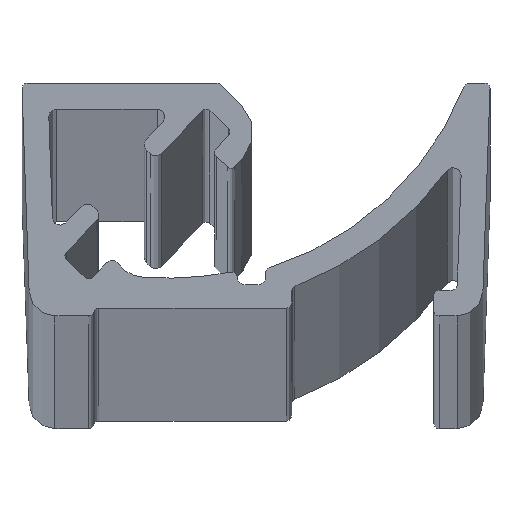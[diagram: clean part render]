
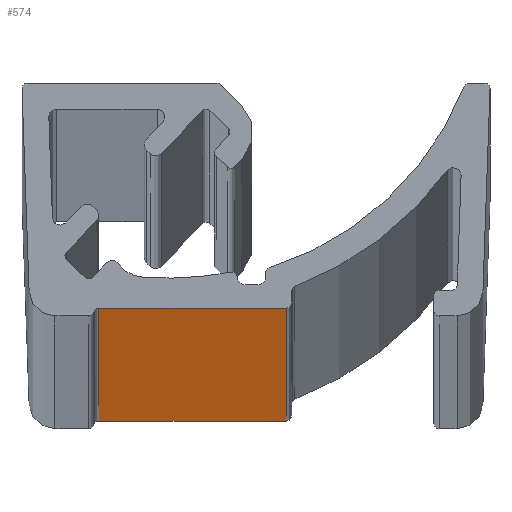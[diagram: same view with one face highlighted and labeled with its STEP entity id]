
A CAD part, top view. The second image highlights one B-rep face of the part: STEP entity #574.
In plain terms, the highlighted planar face has unit normal (0, -1, 0).
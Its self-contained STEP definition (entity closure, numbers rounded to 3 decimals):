
#51 = VERTEX_POINT ( 'NONE', #1094 ) ;
#137 = CARTESIAN_POINT ( 'NONE',  ( -6.083, 0.3, 2500. ) ) ;
#292 = CARTESIAN_POINT ( 'NONE',  ( -6.083, 0.3, 2500. ) ) ;
#303 = DIRECTION ( 'NONE',  ( 0., 0., -1. ) ) ;
#304 = DIRECTION ( 'NONE',  ( 1., 0., 0. ) ) ;
#332 = EDGE_CURVE ( 'NONE', #1978, #1656, #2049, .T. ) ;
#396 = VECTOR ( 'NONE', #478, 1000. ) ;
#404 = VERTEX_POINT ( 'NONE', #1646 ) ;
#442 = VECTOR ( 'NONE', #1753, 1000. ) ;
#478 = DIRECTION ( 'NONE',  ( 0., 0., -1. ) ) ;
#501 = EDGE_CURVE ( 'NONE', #51, #404, #530, .T. ) ;
#530 = LINE ( 'NONE', #1932, #2041 ) ;
#574 = ADVANCED_FACE ( 'NONE', ( #2142 ), #2106, .F. ) ;
#605 = AXIS2_PLACEMENT_3D ( 'NONE', #292, #1101, #1137 ) ;
#683 = ORIENTED_EDGE ( 'NONE', *, *, #332, .T. ) ;
#928 = ORIENTED_EDGE ( 'NONE', *, *, #1215, .T. ) ;
#983 = CARTESIAN_POINT ( 'NONE',  ( -6.083, 0.3, 0. ) ) ;
#1094 = CARTESIAN_POINT ( 'NONE',  ( 1.177, 0.3, 2500. ) ) ;
#1101 = DIRECTION ( 'NONE',  ( 0., 1., 0. ) ) ;
#1137 = DIRECTION ( 'NONE',  ( -1., 0., 0. ) ) ;
#1215 = EDGE_CURVE ( 'NONE', #1656, #404, #1990, .T. ) ;
#1309 = ORIENTED_EDGE ( 'NONE', *, *, #501, .F. ) ;
#1541 = EDGE_LOOP ( 'NONE', ( #928, #1309, #1739, #683 ) ) ;
#1646 = CARTESIAN_POINT ( 'NONE',  ( 1.177, 0.3, 0. ) ) ;
#1656 = VERTEX_POINT ( 'NONE', #2020 ) ;
#1739 = ORIENTED_EDGE ( 'NONE', *, *, #2598, .F. ) ;
#1753 = DIRECTION ( 'NONE',  ( 1., 0., 0. ) ) ;
#1932 = CARTESIAN_POINT ( 'NONE',  ( 1.177, 0.3, 2500. ) ) ;
#1978 = VERTEX_POINT ( 'NONE', #2137 ) ;
#1990 = LINE ( 'NONE', #983, #442 ) ;
#2020 = CARTESIAN_POINT ( 'NONE',  ( -6.083, 0.3, 0. ) ) ;
#2041 = VECTOR ( 'NONE', #303, 1000. ) ;
#2049 = LINE ( 'NONE', #2076, #396 ) ;
#2076 = CARTESIAN_POINT ( 'NONE',  ( -6.083, 0.3, 2500. ) ) ;
#2106 = PLANE ( 'NONE',  #605 ) ;
#2137 = CARTESIAN_POINT ( 'NONE',  ( -6.083, 0.3, 2500. ) ) ;
#2142 = FACE_OUTER_BOUND ( 'NONE', #1541, .T. ) ;
#2543 = LINE ( 'NONE', #137, #2565 ) ;
#2565 = VECTOR ( 'NONE', #304, 1000. ) ;
#2598 = EDGE_CURVE ( 'NONE', #1978, #51, #2543, .T. ) ;
